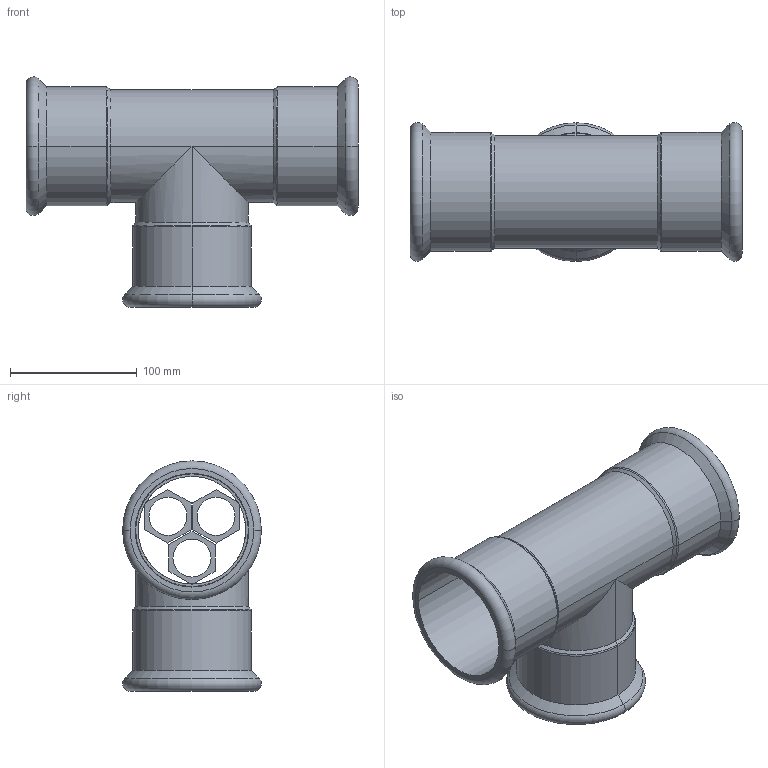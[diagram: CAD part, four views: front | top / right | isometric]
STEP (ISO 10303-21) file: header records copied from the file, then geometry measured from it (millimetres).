
FILE_DESCRIPTION(('OneSpaceDesigner STEP Export'),'2;1');
FILE_NAME('R2714 89x89x89.stp','2010-06-10T 8:45:54',(''),(''),'OneSpace Designer STEP processor for AP214 (Solid Model)','OneSpace Modeling 15.00A 14-Mar-2007 (C) CoCreate Software GmbH','');
FILE_SCHEMA(('AUTOMOTIVE_DESIGN { 1 0 10303 214 1 1 1 1 }'));
Length unit declared in the file: millimetre
Products named in the file (2): R2714_89x89x89
Assembly tree (1 placements, depth 2):
  R2714_89x89x89
    R2714_89x89x89
Bounding box: 262 x 109.48 x 181.74 mm (x, y, z)
Volume: 293735.2 mm3; surface area: 218644.4 mm2
Topology: 1 solids, 1 shells, 173 faces, 432 edges, 275 vertices
Faces by surface type: plane 92, cylinder 57, cone 12, torus 12
Entity records: 4490 total; most frequent: ORIENTED_EDGE 864, CARTESIAN_POINT 730, DIRECTION 645, EDGE_CURVE 432, VERTEX_POINT 275, VECTOR 265, LINE 265, EDGE_LOOP 209
